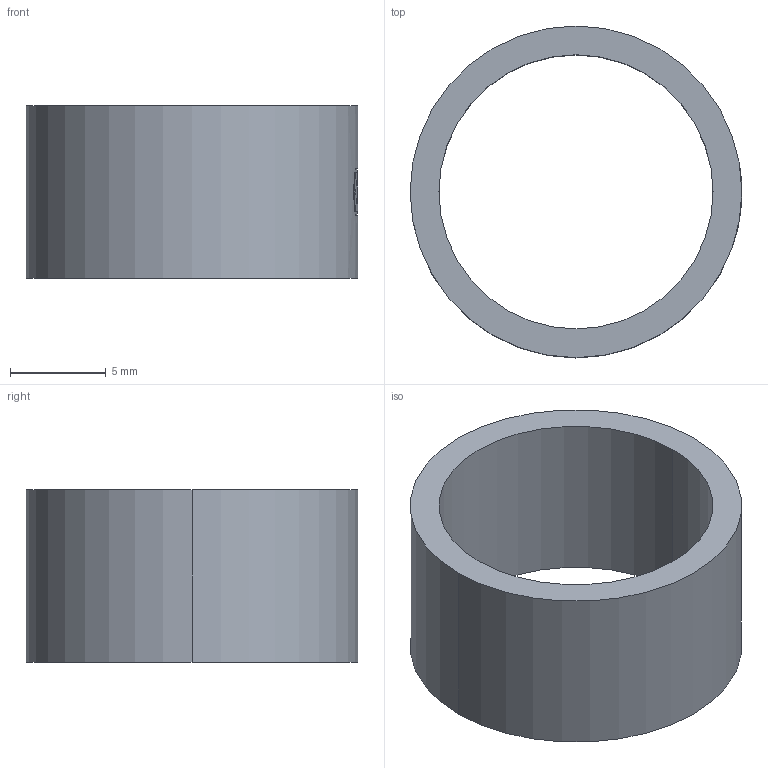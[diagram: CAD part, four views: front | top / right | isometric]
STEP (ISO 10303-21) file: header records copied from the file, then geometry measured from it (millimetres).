
FILE_DESCRIPTION (( 'STEP AP203' ), '1' );
FILE_NAME ('WJ-D 16.STEP', '2007-02-21T09:13:46', ( ' ' ), ( '' ), 'SwSTEP 2.0', 'SolidWorks 2005278', '' );
FILE_SCHEMA (( 'CONFIG_CONTROL_DESIGN' ));
Length unit declared in the file: millimetre
Products named in the file (1): WJ-D 16
Bounding box: 17.3 x 17.3 x 9 mm (x, y, z)
Volume: 670 mm3; surface area: 1043.1 mm2
Topology: 1 solids, 1 shells, 43 faces, 117 edges, 78 vertices
Faces by surface type: plane 36, cylinder 7
Entity records: 1468 total; most frequent: CARTESIAN_POINT 299, ORIENTED_EDGE 234, DIRECTION 221, EDGE_CURVE 117, AXIS2_PLACEMENT_3D 80, VERTEX_POINT 78, VECTOR 61, LINE 61
